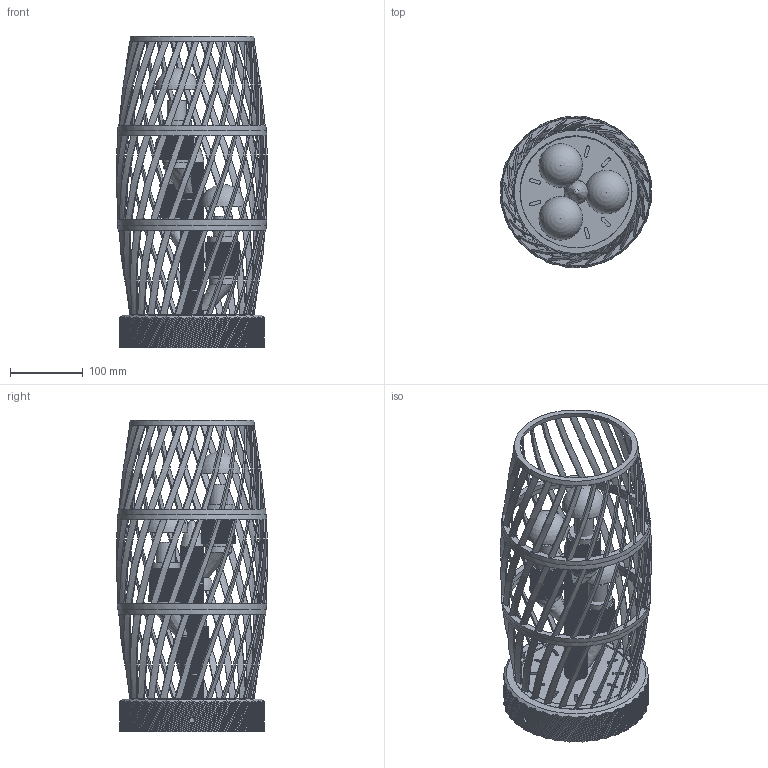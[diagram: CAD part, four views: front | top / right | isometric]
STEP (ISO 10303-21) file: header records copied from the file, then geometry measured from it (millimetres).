
FILE_DESCRIPTION(('Open CASCADE Model'),'2;1');
FILE_NAME('Open CASCADE Shape Model','2026-10-15T23:05:08',('Author'),( 'Open CASCADE'),'Open CASCADE STEP processor 7.9','Open CASCADE 7.9' ,'Unknown');
FILE_SCHEMA(('AUTOMOTIVE_DESIGN { 1 0 10303 214 1 1 1 1 }'));
Length unit declared in the file: millimetre
Products named in the file (19): lanterna; base_corpo; base_fondo; vertebra_1; vertebra_2a; vertebra_2b; terminale; _portalampada_0; manicotto_0; _lampadina_0; _portalampada_1; manicotto_1; _lampadina_1; _portalampada_2; manicotto_2; _lampadina_2; gabbia_inferiore; gabbia_centrale; gabbia_superiore
Assembly tree (18 placements, depth 2):
  lanterna
    base_corpo
    base_fondo
    vertebra_1
    vertebra_2a
    vertebra_2b
    terminale
    _portalampada_0
    manicotto_0
    _lampadina_0
    _portalampada_1
    manicotto_1
    _lampadina_1
    _portalampada_2
    manicotto_2
    _lampadina_2
    gabbia_inferiore
    gabbia_centrale
    gabbia_superiore
Bounding box: 208.3 x 208.3 x 429 mm (x, y, z)
Volume: 1457016.6 mm3; surface area: 674177.6 mm2
Topology: 22 solids, 22 shells, 3401 faces, 9824 edges, 6510 vertices
Faces by surface type: bspline 3013, plane 254, cylinder 108, cone 21, sphere 4, revolution 1
Full cylindrical faces by diameter (mm): 2.2 x24, 2.6 x3, 3.4 x3, 6.4 x3, 7.5 x1, 9 x3, 10 x3, 10.4 x4, 14 x3, 16 x1, 26 x3, 36 x3, 40 x4, 40.6 x3, 153.2 x1, 170.8 x1, 189.8 x1
Entity records: 271570 total; most frequent: CARTESIAN_POINT 118088, ORIENTED_EDGE 19640, PCURVE 19640, DEFINITIONAL_REPRESENTATION 19640, B_SPLINE_CURVE_WITH_KNOTS 17315, DIRECTION 12909, LINE 11162, VECTOR 11162
